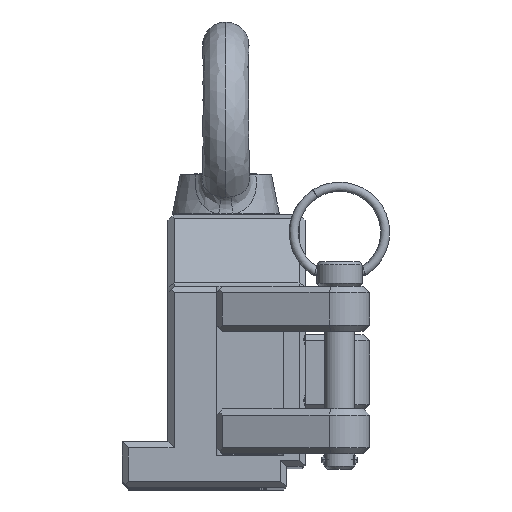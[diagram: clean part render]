
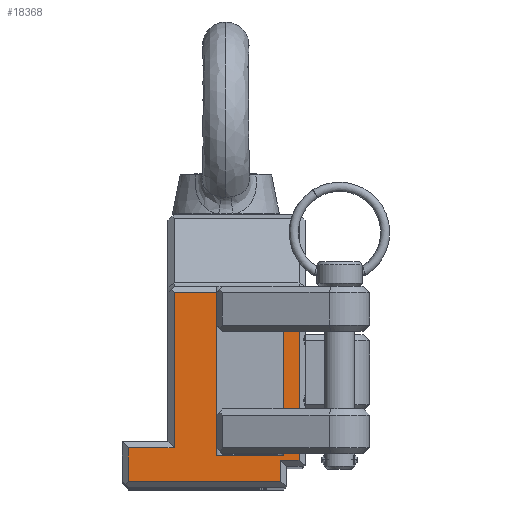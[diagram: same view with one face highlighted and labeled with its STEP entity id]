
A CAD part, top view. The second image highlights one B-rep face of the part: STEP entity #18368.
In plain terms, the highlighted planar face has unit normal (0, 0, 1).
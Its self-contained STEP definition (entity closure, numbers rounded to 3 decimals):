
#10360=DIRECTION('',(1.,0.,0.));
#10361=VECTOR('',#10360,50.);
#10362=CARTESIAN_POINT('',(-28.,2.,238.));
#10363=LINE('',#10362,#10361);
#11062=DIRECTION('',(0.,1.,0.));
#11063=VECTOR('',#11062,7.);
#11064=CARTESIAN_POINT('',(22.,2.,238.));
#11065=LINE('',#11064,#11063);
#11069=DIRECTION('',(0.,-1.,0.));
#11070=VECTOR('',#11069,53.5);
#11071=CARTESIAN_POINT('',(1.,64.,238.));
#11072=LINE('',#11071,#11070);
#11083=DIRECTION('',(-1.,0.,0.));
#11084=VECTOR('',#11083,5.);
#11085=CARTESIAN_POINT('',(28.,64.,238.));
#11086=LINE('',#11085,#11084);
#11097=DIRECTION('',(0.,-1.,0.));
#11098=VECTOR('',#11097,53.5);
#11099=CARTESIAN_POINT('',(23.,64.,238.));
#11100=LINE('',#11099,#11098);
#11143=DIRECTION('',(-1.,0.,0.));
#11144=VECTOR('',#11143,22.);
#11145=CARTESIAN_POINT('',(23.,10.5,238.));
#11146=LINE('',#11145,#11144);
#11180=DIRECTION('',(-1.,0.,0.));
#11181=VECTOR('',#11180,14.);
#11182=CARTESIAN_POINT('',(1.,64.,238.));
#11183=LINE('',#11182,#11181);
#11194=DIRECTION('',(0.,-1.,0.));
#11195=VECTOR('',#11194,51.);
#11196=CARTESIAN_POINT('',(-13.,64.,238.));
#11197=LINE('',#11196,#11195);
#12389=DIRECTION('',(1.,0.,0.));
#12390=VECTOR('',#12389,6.);
#12391=CARTESIAN_POINT('',(22.,9.,238.));
#12392=LINE('',#12391,#12390);
#12403=DIRECTION('',(0.,1.,0.));
#12404=VECTOR('',#12403,55.);
#12405=CARTESIAN_POINT('',(28.,9.,238.));
#12406=LINE('',#12405,#12404);
#14882=DIRECTION('',(-1.,0.,0.));
#14883=VECTOR('',#14882,15.);
#14884=CARTESIAN_POINT('',(-13.,13.,238.));
#14885=LINE('',#14884,#14883);
#14924=DIRECTION('',(0.,-1.,0.));
#14925=VECTOR('',#14924,11.);
#14926=CARTESIAN_POINT('',(-28.,13.,238.));
#14927=LINE('',#14926,#14925);
#15967=CARTESIAN_POINT('',(-28.,2.,238.));
#15968=VERTEX_POINT('',#15967);
#15969=CARTESIAN_POINT('',(22.,2.,238.));
#15970=VERTEX_POINT('',#15969);
#16477=CARTESIAN_POINT('',(-13.,64.,238.));
#16478=VERTEX_POINT('',#16477);
#16479=CARTESIAN_POINT('',(-13.,13.,238.));
#16480=VERTEX_POINT('',#16479);
#16481=CARTESIAN_POINT('',(1.,64.,238.));
#16483=VERTEX_POINT('',#16481);
#16489=CARTESIAN_POINT('',(1.,10.5,238.));
#16490=VERTEX_POINT('',#16489);
#16509=CARTESIAN_POINT('',(23.,64.,238.));
#16510=VERTEX_POINT('',#16509);
#16513=CARTESIAN_POINT('',(28.,64.,238.));
#16514=VERTEX_POINT('',#16513);
#16515=CARTESIAN_POINT('',(23.,10.5,238.));
#16516=VERTEX_POINT('',#16515);
#16535=CARTESIAN_POINT('',(28.,9.,238.));
#16536=VERTEX_POINT('',#16535);
#16537=CARTESIAN_POINT('',(22.,9.,238.));
#16538=VERTEX_POINT('',#16537);
#16539=CARTESIAN_POINT('',(-28.,13.,238.));
#16540=VERTEX_POINT('',#16539);
#18339=CARTESIAN_POINT('',(64.596,90.,238.));
#18340=DIRECTION('',(0.,0.,-1.));
#18341=DIRECTION('',(-1.,0.,0.));
#18342=AXIS2_PLACEMENT_3D('',#18339,#18340,#18341);
#18343=PLANE('',#18342);
#18345=ORIENTED_EDGE('',*,*,#18344,.F.);
#18347=ORIENTED_EDGE('',*,*,#18346,.F.);
#18349=ORIENTED_EDGE('',*,*,#18348,.F.);
#18350=ORIENTED_EDGE('',*,*,#18331,.F.);
#18351=ORIENTED_EDGE('',*,*,#17832,.F.);
#18353=ORIENTED_EDGE('',*,*,#18352,.F.);
#18355=ORIENTED_EDGE('',*,*,#18354,.F.);
#18357=ORIENTED_EDGE('',*,*,#18356,.F.);
#18359=ORIENTED_EDGE('',*,*,#18358,.F.);
#18361=ORIENTED_EDGE('',*,*,#18360,.T.);
#18363=ORIENTED_EDGE('',*,*,#18362,.F.);
#18365=ORIENTED_EDGE('',*,*,#18364,.F.);
#18366=EDGE_LOOP('',(#18345,#18347,#18349,#18350,#18351,#18353,#18355,#18357,
#18359,#18361,#18363,#18365));
#18367=FACE_OUTER_BOUND('',#18366,.F.);
#18368=ADVANCED_FACE('',(#18367),#18343,.F.);
#17832=EDGE_CURVE('',#15968,#15970,#10363,.T.);
#18331=EDGE_CURVE('',#15970,#16538,#11065,.T.);
#18344=EDGE_CURVE('',#16514,#16510,#11086,.T.);
#18346=EDGE_CURVE('',#16536,#16514,#12406,.T.);
#18348=EDGE_CURVE('',#16538,#16536,#12392,.T.);
#18352=EDGE_CURVE('',#16540,#15968,#14927,.T.);
#18354=EDGE_CURVE('',#16480,#16540,#14885,.T.);
#18356=EDGE_CURVE('',#16478,#16480,#11197,.T.);
#18358=EDGE_CURVE('',#16483,#16478,#11183,.T.);
#18360=EDGE_CURVE('',#16483,#16490,#11072,.T.);
#18362=EDGE_CURVE('',#16516,#16490,#11146,.T.);
#18364=EDGE_CURVE('',#16510,#16516,#11100,.T.);
